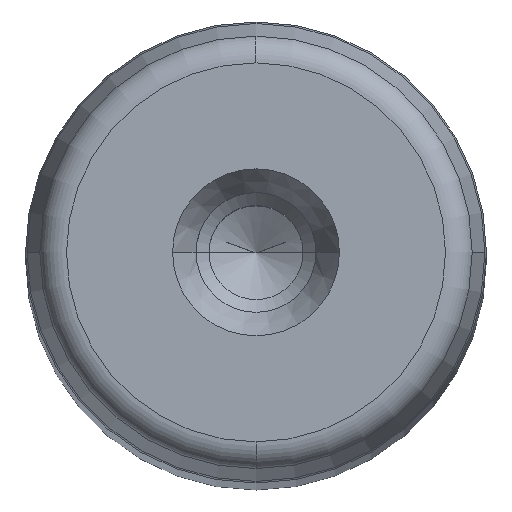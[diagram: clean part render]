
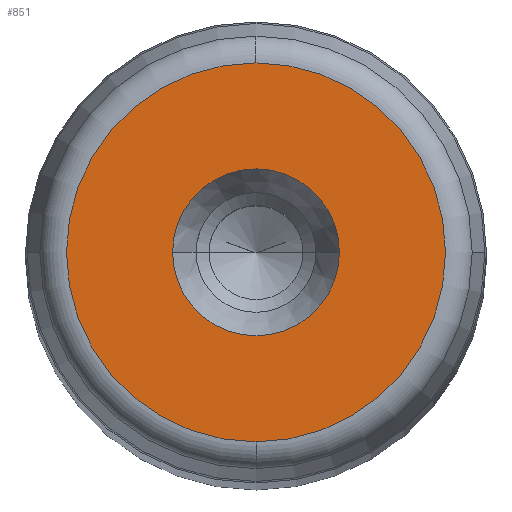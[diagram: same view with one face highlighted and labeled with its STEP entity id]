
A CAD part, top view. The second image highlights one B-rep face of the part: STEP entity #851.
In plain terms, the highlighted planar face has unit normal (0, 0, 1) as drawn and (0, 1, 0) by its records, which use the part's own axes.
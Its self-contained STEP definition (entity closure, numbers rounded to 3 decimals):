
#281=CARTESIAN_POINT('',(9.05,450.0,0.0));
#282=VERTEX_POINT('',#281);
#289=CARTESIAN_POINT('',(-9.05,450.0,0.));
#290=VERTEX_POINT('',#289);
#291=CARTESIAN_POINT('',(0.0,450.0,0.0));
#292=DIRECTION('',(0.0,1.0,0.0));
#293=DIRECTION('',(1.0,0.0,0.0));
#294=AXIS2_PLACEMENT_3D('',#291,#292,#293);
#295=CIRCLE('',#294,9.05);
#296=EDGE_CURVE('',#282,#290,#295,.T.);
#313=CARTESIAN_POINT('',(0.0,450.0,20.554));
#314=VERTEX_POINT('',#313);
#324=CARTESIAN_POINT('',(0.,450.0,-20.554));
#325=VERTEX_POINT('',#324);
#326=CARTESIAN_POINT('',(0.0,450.0,0.0));
#327=DIRECTION('',(0.0,1.0,0.0));
#328=DIRECTION('',(1.0,0.0,0.0));
#329=AXIS2_PLACEMENT_3D('',#326,#327,#328);
#330=CIRCLE('',#329,20.554);
#331=EDGE_CURVE('',#325,#314,#330,.T.);
#812=CARTESIAN_POINT('',(20.554,450.0,0.0));
#813=VERTEX_POINT('',#812);
#814=CARTESIAN_POINT('',(0.0,450.0,0.0));
#815=DIRECTION('',(0.0,1.0,0.0));
#816=DIRECTION('',(1.0,0.0,0.0));
#817=AXIS2_PLACEMENT_3D('',#814,#815,#816);
#818=CIRCLE('',#817,20.554);
#819=EDGE_CURVE('',#813,#325,#818,.T.);
#821=CARTESIAN_POINT('',(0.0,450.0,0.0));
#822=DIRECTION('',(0.0,1.0,0.0));
#823=DIRECTION('',(1.0,0.0,0.0));
#824=AXIS2_PLACEMENT_3D('',#821,#822,#823);
#825=CIRCLE('',#824,20.554);
#826=EDGE_CURVE('',#314,#813,#825,.T.);
#831=CARTESIAN_POINT('',(-22.61,450.0,-22.61));
#832=DIRECTION('',(0.0,1.0,0.0));
#833=DIRECTION('',(0.0,0.0,1.0));
#834=AXIS2_PLACEMENT_3D('',#831,#832,#833);
#835=PLANE('',#834);
#836=ORIENTED_EDGE('',*,*,#819,.T.);
#837=ORIENTED_EDGE('',*,*,#331,.T.);
#838=ORIENTED_EDGE('',*,*,#826,.T.);
#839=EDGE_LOOP('',(#836,#837,#838));
#840=FACE_OUTER_BOUND('',#839,.T.);
#841=ORIENTED_EDGE('',*,*,#296,.F.);
#842=CARTESIAN_POINT('',(0.0,450.0,0.0));
#843=DIRECTION('',(0.0,1.0,0.0));
#844=DIRECTION('',(1.0,0.0,0.0));
#845=AXIS2_PLACEMENT_3D('',#842,#843,#844);
#846=CIRCLE('',#845,9.05);
#847=EDGE_CURVE('',#290,#282,#846,.T.);
#848=ORIENTED_EDGE('',*,*,#847,.F.);
#849=EDGE_LOOP('',(#841,#848));
#850=FACE_BOUND('',#849,.T.);
#851=ADVANCED_FACE('',(#840,#850),#835,.T.);
